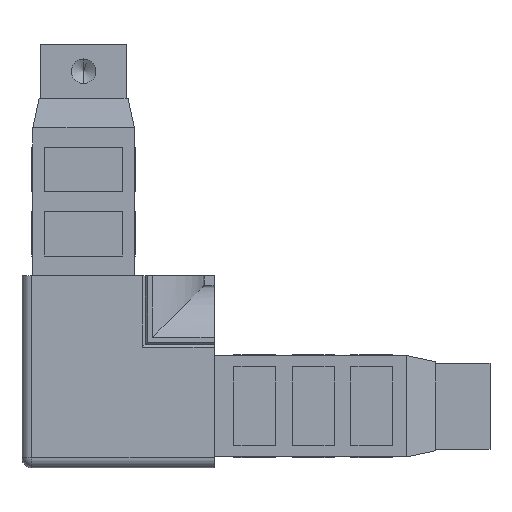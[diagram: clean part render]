
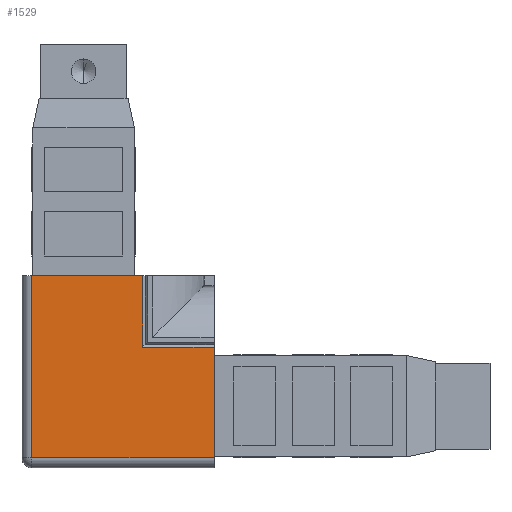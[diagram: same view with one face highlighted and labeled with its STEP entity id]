
A CAD part, left-side view. The second image highlights one B-rep face of the part: STEP entity #1529.
In plain terms, the highlighted planar face has unit normal (-1, 0, 0).
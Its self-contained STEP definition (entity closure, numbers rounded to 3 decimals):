
#10 = LINE ( 'NONE', #1265, #2182 ) ;
#73 = CARTESIAN_POINT ( 'NONE',  ( -12.5, -5., 19.5 ) ) ;
#181 = CARTESIAN_POINT ( 'NONE',  ( -12.5, 17.5, -17.5 ) ) ;
#407 = CARTESIAN_POINT ( 'NONE',  ( -12.5, 17.5, 19.5 ) ) ;
#435 = AXIS2_PLACEMENT_3D ( 'NONE', #722, #3751, #1168 ) ;
#487 = CARTESIAN_POINT ( 'NONE',  ( -12.5, -19.5, 5. ) ) ;
#570 = VERTEX_POINT ( 'NONE', #181 ) ;
#722 = CARTESIAN_POINT ( 'NONE',  ( -12.5, 19.5, 19.5 ) ) ;
#745 = VECTOR ( 'NONE', #4675, 1000. ) ;
#746 = DIRECTION ( 'NONE',  ( 0., 0., 1. ) ) ;
#827 = CARTESIAN_POINT ( 'NONE',  ( -12.5, 17.5, 19.5 ) ) ;
#835 = EDGE_CURVE ( 'NONE', #570, #1639, #10, .T. ) ;
#842 = DIRECTION ( 'NONE',  ( 0., 0., -1. ) ) ;
#1081 = EDGE_CURVE ( 'NONE', #4477, #3113, #2252, .T. ) ;
#1141 = FACE_OUTER_BOUND ( 'NONE', #4374, .T. ) ;
#1168 = DIRECTION ( 'NONE',  ( 0., 1., 0. ) ) ;
#1214 = CARTESIAN_POINT ( 'NONE',  ( -12.5, -19.5, 19.5 ) ) ;
#1265 = CARTESIAN_POINT ( 'NONE',  ( -12.5, -19.5, -17.5 ) ) ;
#1392 = DIRECTION ( 'NONE',  ( 0., -1., 0. ) ) ;
#1456 = LINE ( 'NONE', #3114, #4632 ) ;
#1529 = ADVANCED_FACE ( 'NONE', ( #1141 ), #3296, .F. ) ;
#1571 = EDGE_CURVE ( 'NONE', #4477, #5489, #5469, .T. ) ;
#1639 = VERTEX_POINT ( 'NONE', #3252 ) ;
#1686 = DIRECTION ( 'NONE',  ( 0., -1., 0. ) ) ;
#1883 = DIRECTION ( 'NONE',  ( 0., -1., 0. ) ) ;
#1911 = ORIENTED_EDGE ( 'NONE', *, *, #4823, .T. ) ;
#2022 = VECTOR ( 'NONE', #746, 1000. ) ;
#2182 = VECTOR ( 'NONE', #1686, 1000. ) ;
#2252 = LINE ( 'NONE', #3602, #5294 ) ;
#3113 = VERTEX_POINT ( 'NONE', #487 ) ;
#3114 = CARTESIAN_POINT ( 'NONE',  ( -12.5, 19.5, 19.5 ) ) ;
#3179 = EDGE_CURVE ( 'NONE', #4784, #5489, #1456, .T. ) ;
#3252 = CARTESIAN_POINT ( 'NONE',  ( -12.5, -19.5, -17.5 ) ) ;
#3296 = PLANE ( 'NONE',  #435 ) ;
#3336 = ORIENTED_EDGE ( 'NONE', *, *, #3179, .F. ) ;
#3552 = EDGE_CURVE ( 'NONE', #3113, #1639, #5208, .T. ) ;
#3602 = CARTESIAN_POINT ( 'NONE',  ( -12.5, -3.9, 5. ) ) ;
#3751 = DIRECTION ( 'NONE',  ( 1., 0., 0. ) ) ;
#3916 = ORIENTED_EDGE ( 'NONE', *, *, #3552, .F. ) ;
#4185 = ORIENTED_EDGE ( 'NONE', *, *, #835, .T. ) ;
#4299 = VECTOR ( 'NONE', #842, 1000. ) ;
#4312 = ORIENTED_EDGE ( 'NONE', *, *, #1081, .F. ) ;
#4374 = EDGE_LOOP ( 'NONE', ( #4312, #4921, #3336, #1911, #4185, #3916 ) ) ;
#4477 = VERTEX_POINT ( 'NONE', #4857 ) ;
#4625 = CARTESIAN_POINT ( 'NONE',  ( -12.5, -5., 5.5 ) ) ;
#4632 = VECTOR ( 'NONE', #1392, 1000. ) ;
#4675 = DIRECTION ( 'NONE',  ( 0., 0., -1. ) ) ;
#4724 = LINE ( 'NONE', #407, #4299 ) ;
#4784 = VERTEX_POINT ( 'NONE', #827 ) ;
#4823 = EDGE_CURVE ( 'NONE', #4784, #570, #4724, .T. ) ;
#4857 = CARTESIAN_POINT ( 'NONE',  ( -12.5, -5., 5. ) ) ;
#4921 = ORIENTED_EDGE ( 'NONE', *, *, #1571, .T. ) ;
#5208 = LINE ( 'NONE', #1214, #745 ) ;
#5294 = VECTOR ( 'NONE', #1883, 1000. ) ;
#5469 = LINE ( 'NONE', #4625, #2022 ) ;
#5489 = VERTEX_POINT ( 'NONE', #73 ) ;
